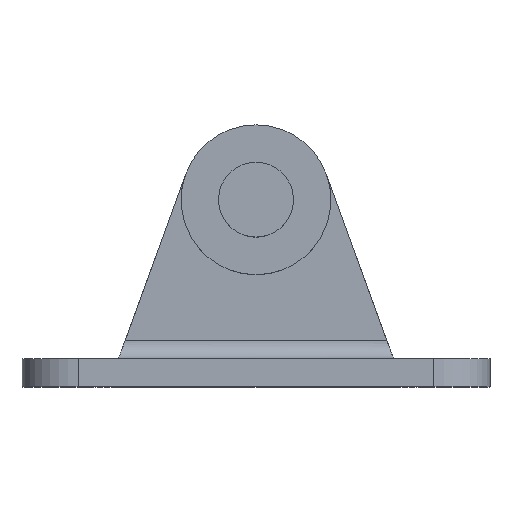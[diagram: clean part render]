
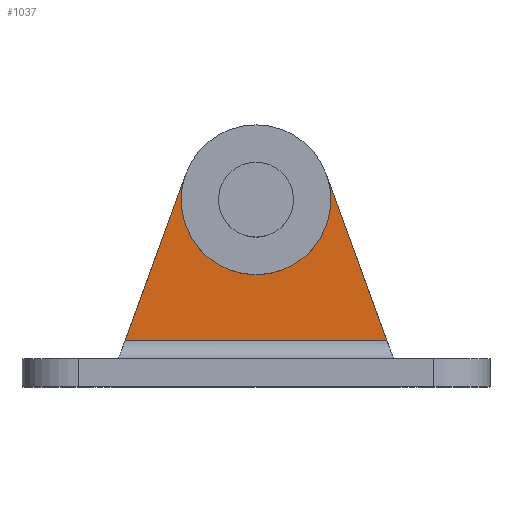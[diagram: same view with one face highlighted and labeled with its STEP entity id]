
A CAD part, top view. The second image highlights one B-rep face of the part: STEP entity #1037.
In plain terms, the highlighted planar face has unit normal (0, 0, 1).
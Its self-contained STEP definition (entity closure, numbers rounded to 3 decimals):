
#5 = CARTESIAN_POINT ( 'NONE',  ( 0., -7.5, -7.779 ) ) ;
#53 = LINE ( 'NONE', #990, #1114 ) ;
#83 = CARTESIAN_POINT ( 'NONE',  ( 0., 0., -7.779 ) ) ;
#127 = AXIS2_PLACEMENT_3D ( 'NONE', #971, #356, #441 ) ;
#135 = DIRECTION ( 'NONE',  ( -1., 0., 0. ) ) ;
#181 = CIRCLE ( 'NONE', #492, 4. ) ;
#209 = EDGE_CURVE ( 'NONE', #914, #418, #769, .T. ) ;
#218 = CARTESIAN_POINT ( 'NONE',  ( 6.986, -7.5, -7.779 ) ) ;
#245 = CARTESIAN_POINT ( 'NONE',  ( 0., 0., -7.779 ) ) ;
#307 = CARTESIAN_POINT ( 'NONE',  ( 3.759, 1.368, -7.779 ) ) ;
#356 = DIRECTION ( 'NONE',  ( 0., 0., -1. ) ) ;
#370 = EDGE_CURVE ( 'NONE', #418, #913, #53, .T. ) ;
#397 = VERTEX_POINT ( 'NONE', #889 ) ;
#418 = VERTEX_POINT ( 'NONE', #307 ) ;
#441 = DIRECTION ( 'NONE',  ( -1., 0., 0. ) ) ;
#445 = LINE ( 'NONE', #5, #1157 ) ;
#454 = LINE ( 'NONE', #1090, #1018 ) ;
#491 = ORIENTED_EDGE ( 'NONE', *, *, #370, .F. ) ;
#492 = AXIS2_PLACEMENT_3D ( 'NONE', #245, #742, #135 ) ;
#506 = ORIENTED_EDGE ( 'NONE', *, *, #583, .F. ) ;
#529 = ORIENTED_EDGE ( 'NONE', *, *, #1207, .F. ) ;
#583 = EDGE_CURVE ( 'NONE', #397, #727, #454, .T. ) ;
#590 = DIRECTION ( 'NONE',  ( -1., 0., 0. ) ) ;
#616 = AXIS2_PLACEMENT_3D ( 'NONE', #677, #1105, #590 ) ;
#676 = DIRECTION ( 'NONE',  ( 0.342, -0.94, 0. ) ) ;
#677 = CARTESIAN_POINT ( 'NONE',  ( 0., 0., -7.779 ) ) ;
#687 = EDGE_CURVE ( 'NONE', #727, #996, #837, .T. ) ;
#725 = CARTESIAN_POINT ( 'NONE',  ( 4., 0., -7.779 ) ) ;
#727 = VERTEX_POINT ( 'NONE', #1117 ) ;
#742 = DIRECTION ( 'NONE',  ( 0., 0., 1. ) ) ;
#744 = EDGE_LOOP ( 'NONE', ( #506, #1308, #491, #1334, #529, #1230 ) ) ;
#769 = CIRCLE ( 'NONE', #616, 4. ) ;
#820 = FACE_OUTER_BOUND ( 'NONE', #744, .T. ) ;
#837 = CIRCLE ( 'NONE', #1001, 4. ) ;
#855 = PLANE ( 'NONE',  #127 ) ;
#889 = CARTESIAN_POINT ( 'NONE',  ( -6.986, -7.5, -7.779 ) ) ;
#913 = VERTEX_POINT ( 'NONE', #218 ) ;
#914 = VERTEX_POINT ( 'NONE', #725 ) ;
#957 = CARTESIAN_POINT ( 'NONE',  ( -4., 0., -7.779 ) ) ;
#964 = EDGE_CURVE ( 'NONE', #397, #913, #445, .T. ) ;
#971 = CARTESIAN_POINT ( 'NONE',  ( 0., 0., -7.779 ) ) ;
#990 = CARTESIAN_POINT ( 'NONE',  ( 3.759, 1.368, -7.779 ) ) ;
#996 = VERTEX_POINT ( 'NONE', #957 ) ;
#1001 = AXIS2_PLACEMENT_3D ( 'NONE', #83, #1005, #1326 ) ;
#1005 = DIRECTION ( 'NONE',  ( 0., 0., 1. ) ) ;
#1018 = VECTOR ( 'NONE', #1085, 1000. ) ;
#1037 = ADVANCED_FACE ( 'NONE', ( #820 ), #855, .F. ) ;
#1085 = DIRECTION ( 'NONE',  ( 0.342, 0.94, 0. ) ) ;
#1090 = CARTESIAN_POINT ( 'NONE',  ( -3.759, 1.368, -7.779 ) ) ;
#1105 = DIRECTION ( 'NONE',  ( 0., 0., 1. ) ) ;
#1114 = VECTOR ( 'NONE', #676, 1000. ) ;
#1117 = CARTESIAN_POINT ( 'NONE',  ( -3.759, 1.368, -7.779 ) ) ;
#1157 = VECTOR ( 'NONE', #1245, 1000. ) ;
#1207 = EDGE_CURVE ( 'NONE', #996, #914, #181, .T. ) ;
#1230 = ORIENTED_EDGE ( 'NONE', *, *, #687, .F. ) ;
#1245 = DIRECTION ( 'NONE',  ( 1., 0., 0. ) ) ;
#1308 = ORIENTED_EDGE ( 'NONE', *, *, #964, .T. ) ;
#1326 = DIRECTION ( 'NONE',  ( -1., 0., 0. ) ) ;
#1334 = ORIENTED_EDGE ( 'NONE', *, *, #209, .F. ) ;
